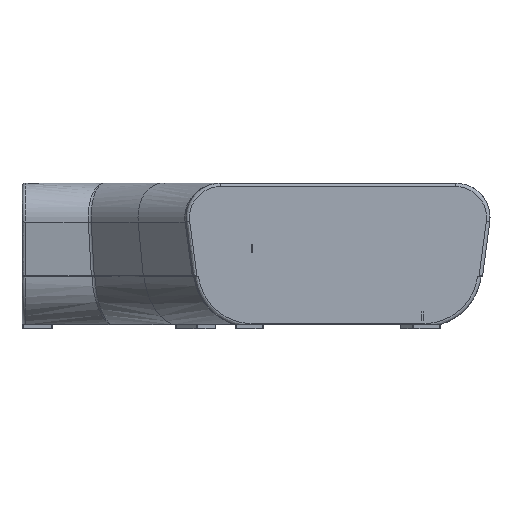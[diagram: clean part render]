
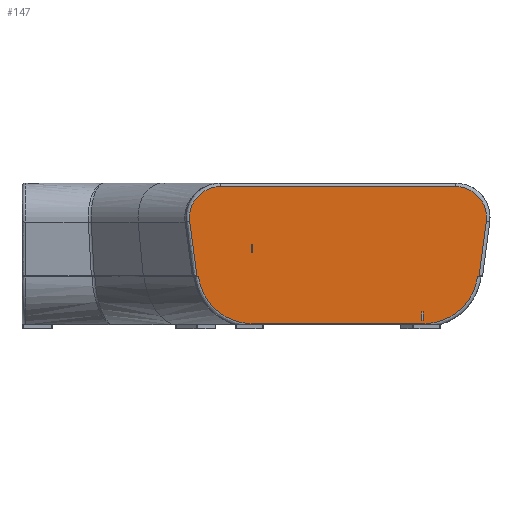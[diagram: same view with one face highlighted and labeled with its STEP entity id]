
A CAD part, left-side view. The second image highlights one B-rep face of the part: STEP entity #147.
In plain terms, the highlighted planar face has unit normal (-1, 0, 0).
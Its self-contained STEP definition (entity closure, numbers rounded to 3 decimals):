
#147=ADVANCED_FACE('',(#285),#2038,.T.);
#285=FACE_OUTER_BOUND('',#423,.T.);
#423=EDGE_LOOP('',(#561,#562,#563,#564,#565,#566,#567,#568,#569,#570));
#561=ORIENTED_EDGE('',*,*,#1186,.F.);
#562=ORIENTED_EDGE('',*,*,#1187,.F.);
#563=ORIENTED_EDGE('',*,*,#1194,.T.);
#564=ORIENTED_EDGE('',*,*,#1193,.T.);
#565=ORIENTED_EDGE('',*,*,#1192,.T.);
#566=ORIENTED_EDGE('',*,*,#1191,.T.);
#567=ORIENTED_EDGE('',*,*,#1188,.T.);
#568=ORIENTED_EDGE('',*,*,#1189,.F.);
#569=ORIENTED_EDGE('',*,*,#1190,.T.);
#570=ORIENTED_EDGE('',*,*,#1185,.T.);
#1185=EDGE_CURVE('',#1811,#1806,#1537,.T.);
#1186=EDGE_CURVE('',#1807,#1806,#1538,.T.);
#1187=EDGE_CURVE('',#1808,#1807,#1539,.T.);
#1188=EDGE_CURVE('',#1815,#1809,#1540,.T.);
#1189=EDGE_CURVE('',#1810,#1809,#1541,.T.);
#1190=EDGE_CURVE('',#1810,#1811,#1542,.T.);
#1191=EDGE_CURVE('',#1813,#1815,#1543,.T.);
#1192=EDGE_CURVE('',#1814,#1813,#1544,.T.);
#1193=EDGE_CURVE('',#1812,#1814,#1545,.T.);
#1194=EDGE_CURVE('',#1808,#1812,#1546,.T.);
#1537=(
BOUNDED_CURVE()
B_SPLINE_CURVE(3,(#2340,#2341,#2342,#2343),.UNSPECIFIED.,.F.,.F.)
B_SPLINE_CURVE_WITH_KNOTS((4,4),(8108.543,8608.668),
 .UNSPECIFIED.)
CURVE()
GEOMETRIC_REPRESENTATION_ITEM()
RATIONAL_B_SPLINE_CURVE((1.,1.,1.,1.))
REPRESENTATION_ITEM('')
);
#1538=(
BOUNDED_CURVE()
B_SPLINE_CURVE(3,(#2344,#2345,#2346,#2347),.UNSPECIFIED.,.F.,.F.)
B_SPLINE_CURVE_WITH_KNOTS((4,4),(-6527.433,-6285.677),
 .UNSPECIFIED.)
CURVE()
GEOMETRIC_REPRESENTATION_ITEM()
RATIONAL_B_SPLINE_CURVE((1.,0.835,0.835,1.))
REPRESENTATION_ITEM('')
);
#1539=(
BOUNDED_CURVE()
B_SPLINE_CURVE(3,(#2348,#2349,#2350,#2351),.UNSPECIFIED.,.F.,.F.)
B_SPLINE_CURVE_WITH_KNOTS((4,4),(-6534.037,-6527.433),
 .UNSPECIFIED.)
CURVE()
GEOMETRIC_REPRESENTATION_ITEM()
RATIONAL_B_SPLINE_CURVE((1.,1.,1.,1.))
REPRESENTATION_ITEM('')
);
#1540=(
BOUNDED_CURVE()
B_SPLINE_CURVE(3,(#2352,#2353,#2354,#2355),.UNSPECIFIED.,.F.,.F.)
B_SPLINE_CURVE_WITH_KNOTS((4,4),(7701.524,7860.183),
 .UNSPECIFIED.)
CURVE()
GEOMETRIC_REPRESENTATION_ITEM()
RATIONAL_B_SPLINE_CURVE((1.,1.,1.,1.))
REPRESENTATION_ITEM('')
);
#1541=(
BOUNDED_CURVE()
B_SPLINE_CURVE(3,(#2356,#2357,#2358,#2359),.UNSPECIFIED.,.F.,.F.)
B_SPLINE_CURVE_WITH_KNOTS((4,4),(-7866.787,-7860.183),
 .UNSPECIFIED.)
CURVE()
GEOMETRIC_REPRESENTATION_ITEM()
RATIONAL_B_SPLINE_CURVE((1.,1.,1.,1.))
REPRESENTATION_ITEM('')
);
#1542=(
BOUNDED_CURVE()
B_SPLINE_CURVE(3,(#2360,#2361,#2362,#2363),.UNSPECIFIED.,.F.,.F.)
B_SPLINE_CURVE_WITH_KNOTS((4,4),(7866.787,8108.543),
 .UNSPECIFIED.)
CURVE()
GEOMETRIC_REPRESENTATION_ITEM()
RATIONAL_B_SPLINE_CURVE((1.,0.835,0.835,1.))
REPRESENTATION_ITEM('')
);
#1543=(
BOUNDED_CURVE()
B_SPLINE_CURVE(3,(#2364,#2365,#2366,#2367,#2368,#2369,#2370),
 .UNSPECIFIED.,.F.,.F.)
B_SPLINE_CURVE_WITH_KNOTS((4,3,4),(7531.267,7616.395,7701.524),
 .UNSPECIFIED.)
CURVE()
GEOMETRIC_REPRESENTATION_ITEM()
RATIONAL_B_SPLINE_CURVE((1.,0.941,0.941,1.,0.941,
0.941,1.))
REPRESENTATION_ITEM('')
);
#1544=(
BOUNDED_CURVE()
B_SPLINE_CURVE(3,(#2371,#2372,#2373,#2374),.UNSPECIFIED.,.F.,.F.)
B_SPLINE_CURVE_WITH_KNOTS((4,4),(6845.926,7531.267),
 .UNSPECIFIED.)
CURVE()
GEOMETRIC_REPRESENTATION_ITEM()
RATIONAL_B_SPLINE_CURVE((1.,1.,1.,1.))
REPRESENTATION_ITEM('')
);
#1545=(
BOUNDED_CURVE()
B_SPLINE_CURVE(3,(#2375,#2376,#2377,#2378,#2379,#2380,#2381),
 .UNSPECIFIED.,.F.,.F.)
B_SPLINE_CURVE_WITH_KNOTS((4,1,1,1,4),(6692.696,6731.003,
6769.311,6807.618,6845.926),.UNSPECIFIED.)
CURVE()
GEOMETRIC_REPRESENTATION_ITEM()
RATIONAL_B_SPLINE_CURVE((1.,1.,1.,1.,1.,1.,1.))
REPRESENTATION_ITEM('')
);
#1546=(
BOUNDED_CURVE()
B_SPLINE_CURVE(3,(#2382,#2383,#2384,#2385),.UNSPECIFIED.,.F.,.F.)
B_SPLINE_CURVE_WITH_KNOTS((4,4),(6534.037,6692.696),
 .UNSPECIFIED.)
CURVE()
GEOMETRIC_REPRESENTATION_ITEM()
RATIONAL_B_SPLINE_CURVE((1.,1.,1.,1.))
REPRESENTATION_ITEM('')
);
#1806=VERTEX_POINT('',#2330);
#1807=VERTEX_POINT('',#2331);
#1808=VERTEX_POINT('',#2332);
#1809=VERTEX_POINT('',#2333);
#1810=VERTEX_POINT('',#2334);
#1811=VERTEX_POINT('',#2335);
#1812=VERTEX_POINT('',#2336);
#1813=VERTEX_POINT('',#2337);
#1814=VERTEX_POINT('',#2338);
#1815=VERTEX_POINT('',#2339);
#2038=PLANE('',#2244);
#2244=AXIS2_PLACEMENT_3D('',#2329,#2279,$);
#2279=DIRECTION('',(-1.,0.,0.));
#2329=CARTESIAN_POINT('',(0.,444.041,418.));
#2330=CARTESIAN_POINT('',(0.,-250.063,15.));
#2331=CARTESIAN_POINT('',(0.,-406.693,152.24));
#2332=CARTESIAN_POINT('',(0.,-411.044,154.892));
#2333=CARTESIAN_POINT('',(0.,411.044,154.892));
#2334=CARTESIAN_POINT('',(0.,406.693,152.24));
#2335=CARTESIAN_POINT('',(0.,250.063,15.));
#2336=CARTESIAN_POINT('',(0.,-431.89,312.175));
#2337=CARTESIAN_POINT('',(0.,342.671,414.));
#2338=CARTESIAN_POINT('',(0.,-342.671,414.));
#2339=CARTESIAN_POINT('',(0.,431.89,312.175));
#2340=CARTESIAN_POINT('',(0.,250.063,15.));
#2341=CARTESIAN_POINT('',(0.,83.354,15.));
#2342=CARTESIAN_POINT('',(0.,-83.354,15.));
#2343=CARTESIAN_POINT('',(0.,-250.063,15.));
#2344=CARTESIAN_POINT('',(0.,-406.693,152.24));
#2345=CARTESIAN_POINT('',(0.,-395.767,69.803));
#2346=CARTESIAN_POINT('',(0.,-333.221,15.));
#2347=CARTESIAN_POINT('',(0.,-250.063,15.));
#2348=CARTESIAN_POINT('',(0.,-411.044,154.892));
#2349=CARTESIAN_POINT('',(0.,-411.044,152.997));
#2350=CARTESIAN_POINT('',(0.,-409.594,152.113));
#2351=CARTESIAN_POINT('',(0.,-406.693,152.24));
#2352=CARTESIAN_POINT('',(0.,431.89,312.175));
#2353=CARTESIAN_POINT('',(0.,424.942,259.747));
#2354=CARTESIAN_POINT('',(0.,417.993,207.319));
#2355=CARTESIAN_POINT('',(0.,411.044,154.892));
#2356=CARTESIAN_POINT('',(0.,406.693,152.24));
#2357=CARTESIAN_POINT('',(0.,409.594,152.113));
#2358=CARTESIAN_POINT('',(0.,411.044,152.997));
#2359=CARTESIAN_POINT('',(0.,411.044,154.892));
#2360=CARTESIAN_POINT('',(0.,406.693,152.24));
#2361=CARTESIAN_POINT('',(0.,395.767,69.803));
#2362=CARTESIAN_POINT('',(0.,333.221,15.));
#2363=CARTESIAN_POINT('',(0.,250.063,15.));
#2364=CARTESIAN_POINT('',(0.,342.671,414.));
#2365=CARTESIAN_POINT('',(0.,369.012,414.));
#2366=CARTESIAN_POINT('',(0.,393.003,403.124));
#2367=CARTESIAN_POINT('',(0.,410.362,383.312));
#2368=CARTESIAN_POINT('',(0.,427.721,363.5));
#2369=CARTESIAN_POINT('',(0.,435.351,338.288));
#2370=CARTESIAN_POINT('',(0.,431.89,312.175));
#2371=CARTESIAN_POINT('',(0.,-342.671,414.));
#2372=CARTESIAN_POINT('',(0.,-114.224,414.));
#2373=CARTESIAN_POINT('',(0.,114.224,414.));
#2374=CARTESIAN_POINT('',(0.,342.671,414.));
#2375=CARTESIAN_POINT('',(0.,-431.89,312.175));
#2376=CARTESIAN_POINT('',(0.,-433.578,324.832));
#2377=CARTESIAN_POINT('',(0.,-431.453,350.868));
#2378=CARTESIAN_POINT('',(0.,-412.443,385.135));
#2379=CARTESIAN_POINT('',(0.,-380.971,408.483));
#2380=CARTESIAN_POINT('',(0.,-355.44,414.01));
#2381=CARTESIAN_POINT('',(0.,-342.671,414.));
#2382=CARTESIAN_POINT('',(0.,-411.044,154.892));
#2383=CARTESIAN_POINT('',(0.,-417.993,207.319));
#2384=CARTESIAN_POINT('',(0.,-424.942,259.747));
#2385=CARTESIAN_POINT('',(0.,-431.89,312.175));
